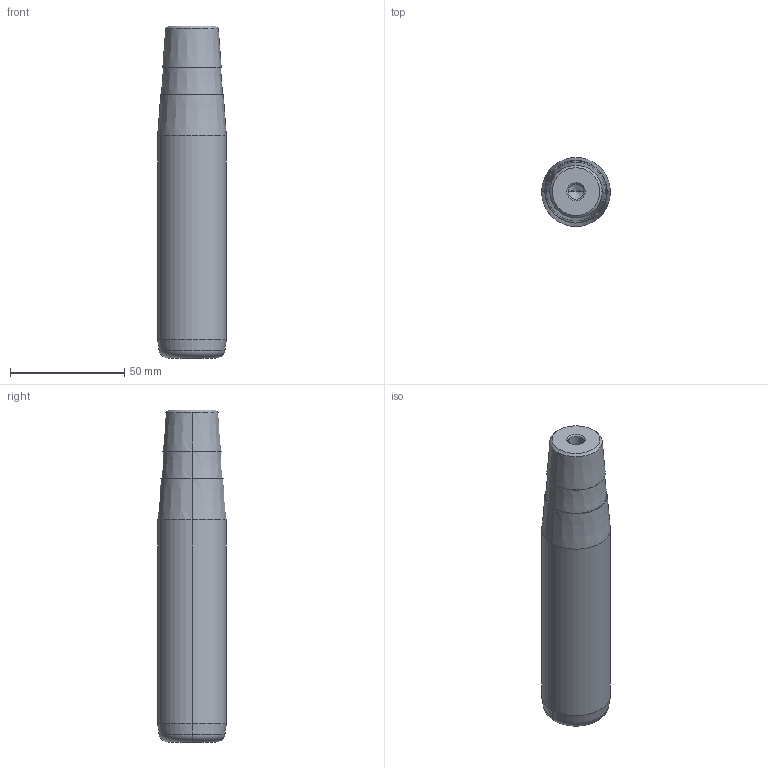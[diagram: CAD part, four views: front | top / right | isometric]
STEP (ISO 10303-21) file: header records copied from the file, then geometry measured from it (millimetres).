
FILE_DESCRIPTION(('CATIA V5 STEP Exchange'),'2;1');
FILE_NAME('C:\Users\Utente\Desktop\IO LAVORO\3D X SITO CF\X SITO\722\722-30x112x145.stp','2021-01-08T16:21:38+00:00',('none'),('none'),'CATIA Version 5 Release 20 GA (IN-10)','CATIA V5 STEP AP203','none');
FILE_SCHEMA(('CONFIG_CONTROL_DESIGN'));
Length unit declared in the file: millimetre
Products named in the file (1): 722-30x112x145
Bounding box: 30 x 30 x 145 mm (x, y, z)
Volume: 92195.8 mm3; surface area: 15081.5 mm2
Topology: 1 solids, 1 shells, 32 faces, 66 edges, 34 vertices
Faces by surface type: cone 22, cylinder 6, plane 2, torus 2
Entity records: 854 total; most frequent: CARTESIAN_POINT 175, DIRECTION 124, ORIENTED_EDGE 124, AXIS2_PLACEMENT_3D 65, EDGE_CURVE 62, EDGE_LOOP 34, VERTEX_POINT 34, ADVANCED_FACE 32
